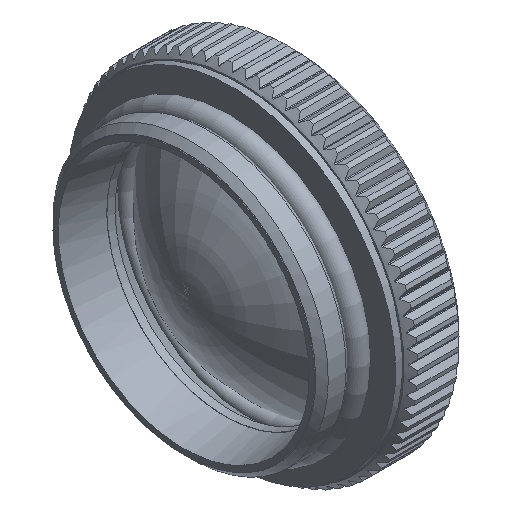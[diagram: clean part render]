
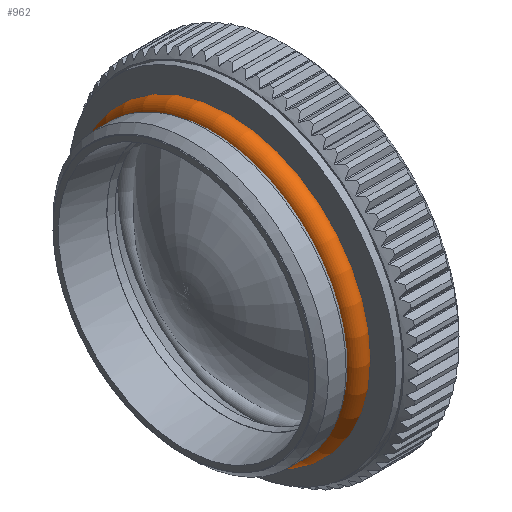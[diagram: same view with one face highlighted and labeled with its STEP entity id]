
A CAD part, isometric view. The second image highlights one B-rep face of the part: STEP entity #962.
In plain terms, the highlighted toroidal (fillet/blend) face has major radius 9.75 mm and minor radius 0.75 mm.
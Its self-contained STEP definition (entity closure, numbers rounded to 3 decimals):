
#42=VERTEX_LOOP('',#4154);
#53=TOROIDAL_SURFACE('',#6443,9.75,0.75);
#962=ADVANCED_FACE('',(#1186),#53,.T.);
#1186=FACE_BOUND('',#42,.T.);
#4154=VERTEX_POINT('',#14730);
#6443=AXIS2_PLACEMENT_3D('',#14731,#7127,#7128);
#7127=DIRECTION('',(-1.,0.,0.));
#7128=DIRECTION('',(0.,0.,1.));
#14730=CARTESIAN_POINT('',(2.35,0.,10.5));
#14731=CARTESIAN_POINT('',(2.35,0.,0.));
